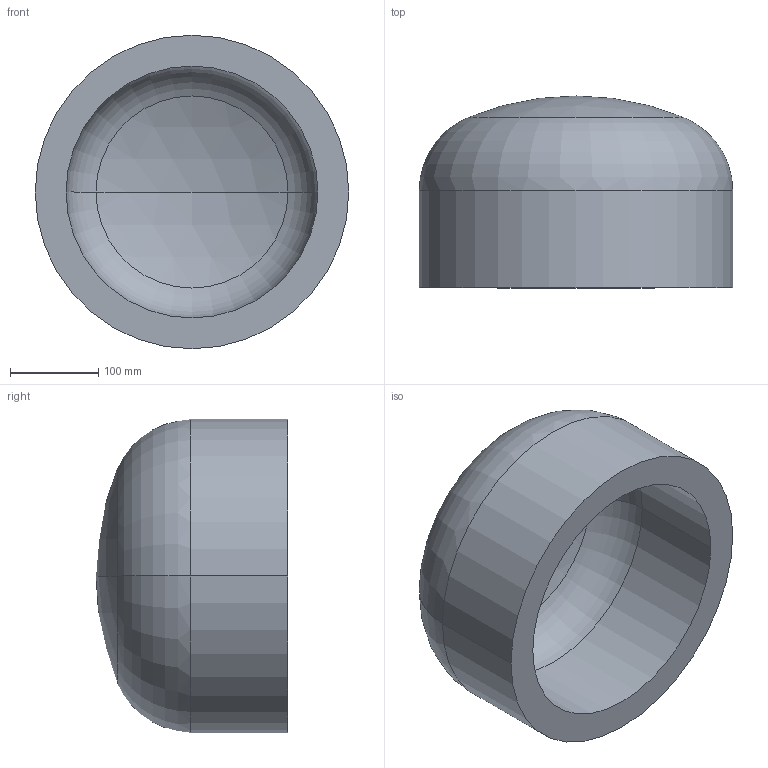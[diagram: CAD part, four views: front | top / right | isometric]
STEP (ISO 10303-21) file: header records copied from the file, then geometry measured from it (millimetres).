
FILE_DESCRIPTION (( 'STEP AP203' ), '1' );
FILE_NAME ('DIN 28013 Korbbogenform_-_Boden DIN 28013 - 355,6 x 110 - I - s=35.step', '2016-07-01T07:47:50', ( '' ), ( '' ), 'SwSTEP 2.0', 'SolidWorks 2013', '' );
FILE_SCHEMA (( 'CONFIG_CONTROL_DESIGN' ));
Length unit declared in the file: millimetre
Products named in the file (1): DIN 28013 Korbbogenform_-_Boden DIN 28013 - 355,6 x 110 - I - s=35
Bounding box: 355.6 x 217.5 x 355.6 mm (x, y, z)
Volume: 8143455.7 mm3; surface area: 503157.7 mm2
Topology: 1 solids, 1 shells, 13 faces, 24 edges, 14 vertices
Faces by surface type: torus 4, cylinder 4, sphere 4, plane 1
Entity records: 407 total; most frequent: DIRECTION 72, CARTESIAN_POINT 52, ORIENTED_EDGE 48, AXIS2_PLACEMENT_3D 34, EDGE_CURVE 24, CIRCLE 20, VERTEX_POINT 14, EDGE_LOOP 14
